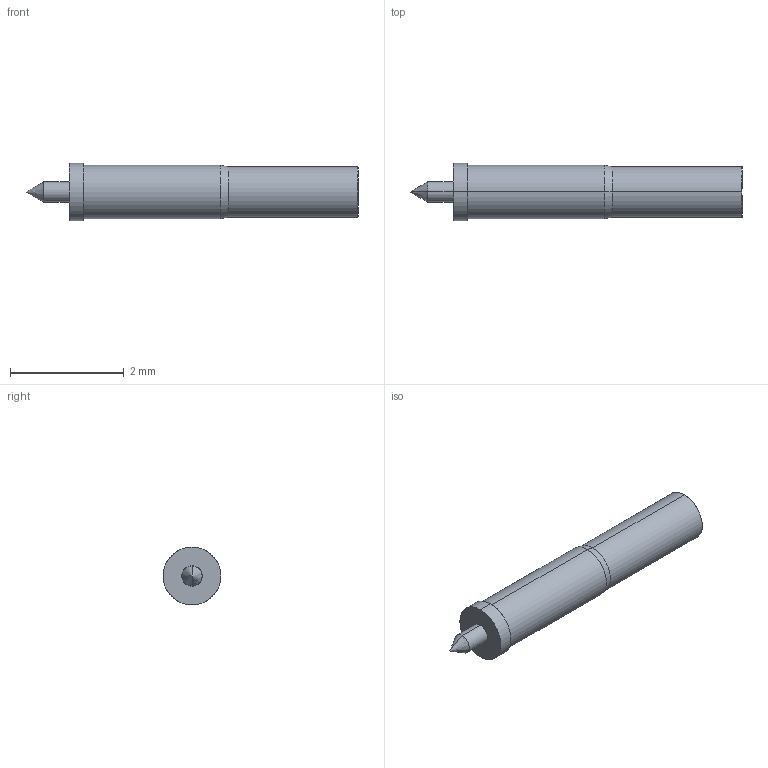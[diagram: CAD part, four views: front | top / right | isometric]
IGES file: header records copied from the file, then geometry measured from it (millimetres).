
Start section: SolidWorks IGES file using analytic representation for surfaces
Global section: file name: O:\PYLON\IGES FILES\A-S\A-S-C.IGS; native system: SolidWorks 2015; preprocessor: SolidWorks 2015; author: kgolden; date: 171023.150412; units: inch
Bounding box: 5.84 x 1.02 x 1.02 mm (x, y, z)
Surface area: 19.1 mm2 (no closed solid volume)
Topology: 0 solids, 0 shells, 18 faces, 168 edges, 166 vertices
Faces by surface type: revolution 14, bspline 4
